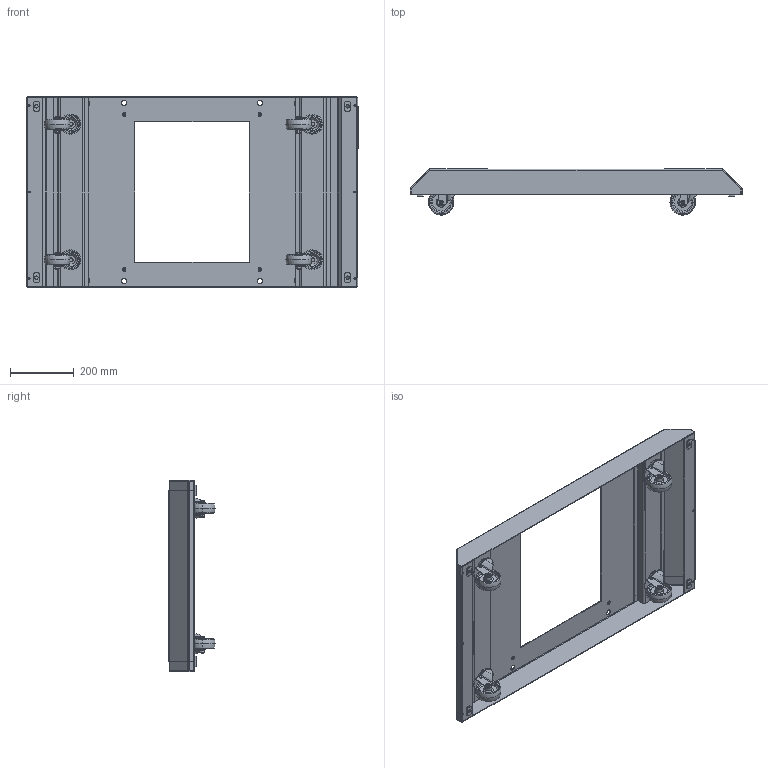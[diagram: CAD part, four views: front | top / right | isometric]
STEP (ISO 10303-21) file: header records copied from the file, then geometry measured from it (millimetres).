
FILE_DESCRIPTION (( 'STEP AP203' ), '1' );
FILE_NAME ('p2bm65.STEP', '2016-06-07T15:52:35', ( '' ), ( '' ), 'SwSTEP 2.0', 'SolidWorks 2014', '' );
FILE_SCHEMA (( 'CONFIG_CONTROL_DESIGN' ));
Length unit declared in the file: inch
Products named in the file (10): 60114139_60114139; 89130265_FLEXIBLE; 87548072; 89135319; p2bm65; 87923500; 89135317; 87555843; 87555844; 89135267
Assembly tree (19 placements, depth 4):
  p2bm65
    89135267
      89135317
        89135319
        87923500  x4
      87555844  x2
        87555843
        87923500
    89130265_FLEXIBLE
      60114139_60114139  x4
    87548072  x2
Bounding box: 1041.03 x 144.48 x 600 mm (x, y, z)
Volume: 2710292.2 mm3; surface area: 2674618.1 mm2
Topology: 13 solids, 41 shells, 1106 faces, 2676 edges, 1716 vertices
Faces by surface type: plane 518, cylinder 288, torus 128, cone 124, bspline 40, sphere 8
Entity records: 15013 total; most frequent: CARTESIAN_POINT 3372, DIRECTION 2220, ORIENTED_EDGE 2035, EDGE_CURVE 1050, AXIS2_PLACEMENT_3D 823, VERTEX_POINT 655, VECTOR 574, LINE 574
